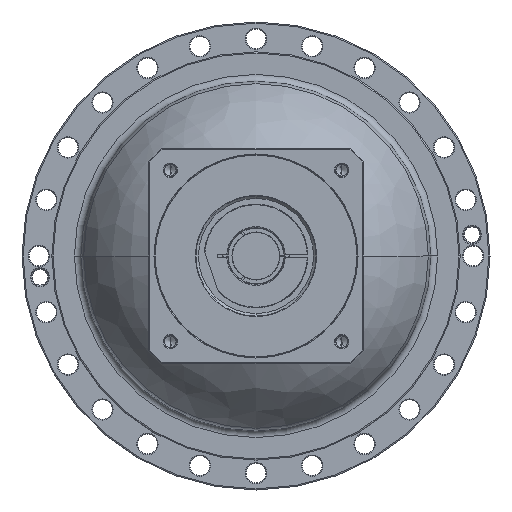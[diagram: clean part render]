
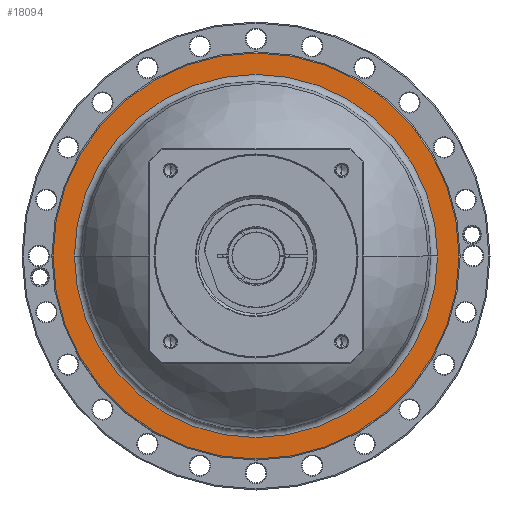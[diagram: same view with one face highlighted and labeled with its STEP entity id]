
A CAD part, left-side view. The second image highlights one B-rep face of the part: STEP entity #18094.
In plain terms, the highlighted planar face has unit normal (-1, 0, 0) as drawn and (1, 0, 0) by its records, which use the part's own axes.
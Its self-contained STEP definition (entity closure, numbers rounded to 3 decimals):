
#17543=CARTESIAN_POINT('',(-135.,0.,0.));
#17544=DIRECTION('',(-1.,0.,0.));
#17545=DIRECTION('',(0.,-1.,0.));
#17546=AXIS2_PLACEMENT_3D('',#17543,#17544,#17545);
#17548=CARTESIAN_POINT('',(-135.,0.,0.));
#17549=DIRECTION('',(-1.,0.,0.));
#17550=DIRECTION('',(0.,1.,0.));
#17551=AXIS2_PLACEMENT_3D('',#17548,#17549,#17550);
#17553=CARTESIAN_POINT('',(-135.,0.,0.));
#17554=DIRECTION('',(-1.,0.,0.));
#17555=DIRECTION('',(0.,-1.,0.));
#17556=AXIS2_PLACEMENT_3D('',#17553,#17554,#17555);
#17558=CARTESIAN_POINT('',(-135.,0.,0.));
#17559=DIRECTION('',(-1.,0.,0.));
#17560=DIRECTION('',(0.,1.,0.));
#17561=AXIS2_PLACEMENT_3D('',#17558,#17559,#17560);
#17683=CARTESIAN_POINT('',(-135.,-180.,0.));
#17684=CARTESIAN_POINT('',(-135.,180.,0.));
#17685=VERTEX_POINT('',#17683);
#17686=VERTEX_POINT('',#17684);
#17703=CARTESIAN_POINT('',(-135.,-161.,0.));
#17704=CARTESIAN_POINT('',(-135.,161.,0.));
#17705=VERTEX_POINT('',#17703);
#17706=VERTEX_POINT('',#17704);
#18079=CARTESIAN_POINT('',(-135.,0.,0.));
#18080=DIRECTION('',(1.,0.,0.));
#18081=DIRECTION('',(0.,-1.,0.));
#18082=AXIS2_PLACEMENT_3D('',#18079,#18080,#18081);
#18083=PLANE('',#18082);
#18085=ORIENTED_EDGE('',*,*,#18084,.T.);
#18087=ORIENTED_EDGE('',*,*,#18086,.T.);
#18088=EDGE_LOOP('',(#18085,#18087));
#18089=FACE_OUTER_BOUND('',#18088,.F.);
#18090=ORIENTED_EDGE('',*,*,#18059,.F.);
#18091=ORIENTED_EDGE('',*,*,#18073,.F.);
#18092=EDGE_LOOP('',(#18090,#18091));
#18093=FACE_BOUND('',#18092,.F.);
#18094=ADVANCED_FACE('',(#18089,#18093),#18083,.T.);
#17547=CIRCLE('',#17546,161.);
#17552=CIRCLE('',#17551,161.);
#17557=CIRCLE('',#17556,180.);
#17562=CIRCLE('',#17561,180.);
#18059=EDGE_CURVE('',#17705,#17706,#17547,.T.);
#18073=EDGE_CURVE('',#17706,#17705,#17552,.T.);
#18084=EDGE_CURVE('',#17685,#17686,#17557,.T.);
#18086=EDGE_CURVE('',#17686,#17685,#17562,.T.);
